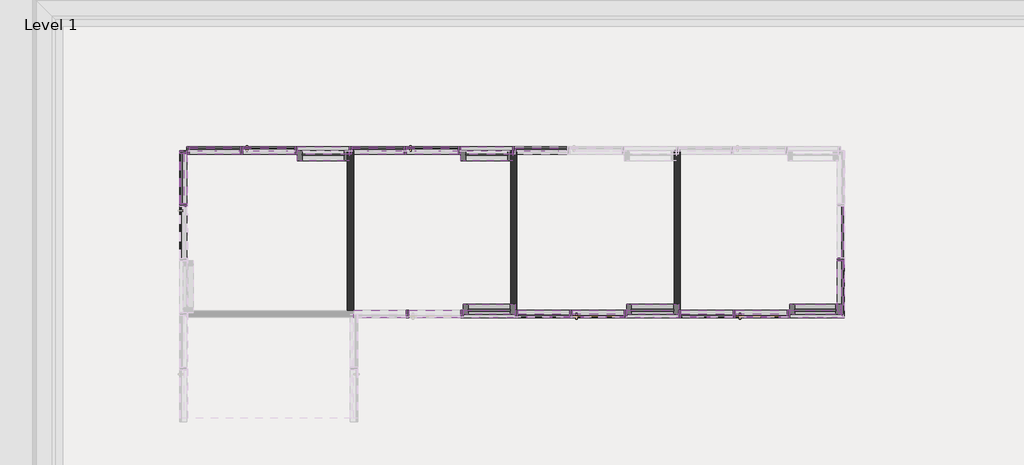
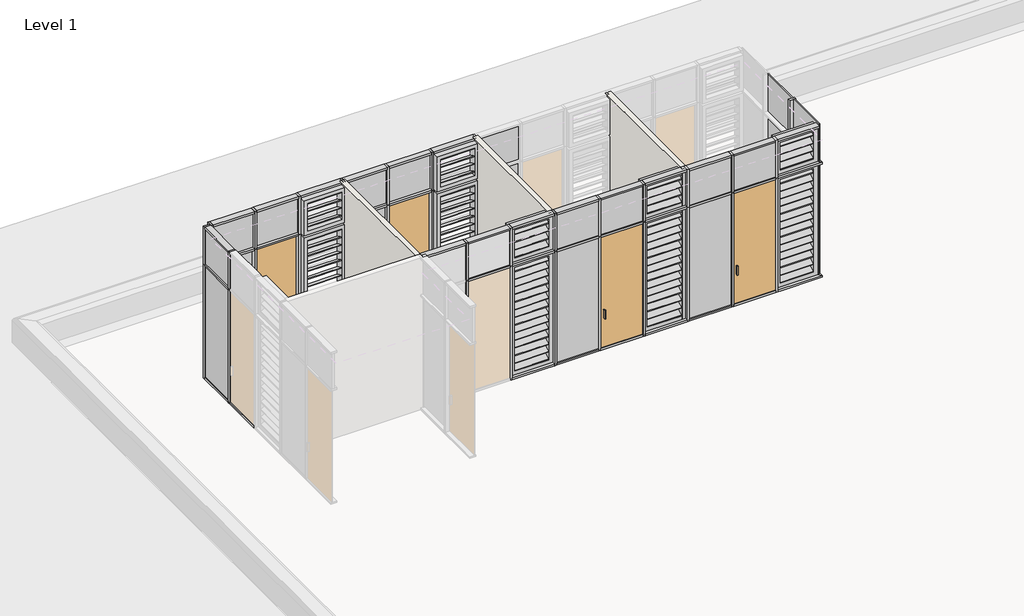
# One storey, part 14 of 32: 85 members, 30 plates, 4 doors, 3 walls.
"""IFC4 building model written with IfcOpenShell, lengths in millimetres."""

from ifc_helpers import new_model, si_unit, frame, origin, place, context, project, spatial, polyline, outline, extrude, transform, mapped, element, save
from components import curtain_wall_door_single_glass_nz_curtain_wall_door_single_2bf20aac, curtain_wall_door_single_glass_nz_curtain_wall_door_single_ff8afd41, rectangular_mullion_50x150mm_c4504768, rectangular_mullion_50x150mm_6c7cb899, rectangular_mullion_50x150mm_b0af8bb0, rectangular_mullion_50x150mm_bbc1c4ea, rectangular_mullion_50x150mm_1a36453b, rectangular_mullion_50x150mm_a65b6ca2, rectangular_mullion_50x150mm_38419d34, rectangular_mullion_50x150mm_eeb88b28, rectangular_mullion_50x150mm_68c91185, rectangular_mullion_50x150mm_0d540e17, rectangular_mullion_50x150mm_108cdc6f, rectangular_mullion_50x150mm_5ad56873, rectangular_mullion_50x150mm_d9cea391, rectangular_mullion_50x150mm_f8d06da4, rectangular_mullion_50x150mm_99d6a864, rectangular_mullion_50x150mm_9f7ecabc, rectangular_mullion_50x150mm_ddefc81e, curtain_wall_panel_louver_20805_curtain_wall_panel_louver_4af505d4, curtain_wall_panel_louver_20805_curtain_wall_panel_louver_14332c5b, curtain_wall_panel_louver_20805_curtain_wall_panel_louver_392ec3e4, curtain_wall_panel_glass_louver_20805_curtain_wall_panel_036772b2, curtain_wall_panel_glass_louver_20805_curtain_wall_panel_0f8e40a1, curtain_wall_panel_glass_louver_20805_curtain_wall_panel_cb61cbd1, system_panel_glazed_a5e8ce8b, system_panel_glazed_2ffedfca, system_panel_glazed_7622d22c, system_panel_glazed_53fe5bbb, system_panel_glazed_bed50b64, system_panel_glazed_01376e9d, system_panel_glazed_e33ebc36, system_panel_solid_585523e5, system_panel_solid_81bf8050, system_panel_solid_10c0fb46, system_panel_solid_2b2d5e45

model = new_model("IFC4")

# Units and contexts
model_context = context("Model", 3, world=origin())
ifc_project = project(units=[si_unit("LENGTHUNIT", "METRE", prefix="MILLI")], contexts=[model_context])

# Site, building, storey
site = spatial("IfcSite", under=ifc_project)
building = spatial("IfcBuilding", under=site)
storey = spatial("IfcBuildingStorey", under=building, Name="Level 1", Elevation=2800.0)

# Doors
placement = place(None, origin())
curtain_wall_door_single_glass_nz_curtain_wall_door_single_shape = curtain_wall_door_single_glass_nz_curtain_wall_door_single_2bf20aac(model_context)
element("IfcDoor", 1, ObjectType="Curtain Wall Door-Single-Glass (NZ) : Curtain Wall Door-Single-Glass (NZ)", at=placement, inside=storey, context=model_context, shape_type="MappedRepresentation", body=[
    mapped(curtain_wall_door_single_glass_nz_curtain_wall_door_single_shape, transform((-82209.8408447, 5494.0800404, 2850.0), x_axis=(1.0, 0.0, 0.0), y_axis=(0.0, 1.0, 0.0), z_axis=(0.0, 0.0, 1.0))),
])
element("IfcDoor", 2, ObjectType="Curtain Wall Door-Single-Glass (NZ) : Curtain Wall Door-Single-Glass (NZ)", at=placement, inside=storey, context=model_context, shape_type="MappedRepresentation", body=[
    mapped(curtain_wall_door_single_glass_nz_curtain_wall_door_single_shape, transform((-85509.8408447, 5494.0800404, 2850.0), x_axis=(1.0, 0.0, 0.0), y_axis=(0.0, 1.0, 0.0), z_axis=(0.0, 0.0, 1.0))),
])
curtain_wall_door_single_glass_nz_curtain_wall_door_single_2_shape = curtain_wall_door_single_glass_nz_curtain_wall_door_single_ff8afd41(model_context)
element("IfcDoor", 3, ObjectType="Curtain Wall Door-Single-Glass (NZ) : Curtain Wall Door-Single-Glass (NZ)", at=placement, inside=storey, context=model_context, shape_type="MappedRepresentation", body=[
    mapped(curtain_wall_door_single_glass_nz_curtain_wall_door_single_2_shape, transform((-75560.3408448, 2194.0800404, 2850.0), x_axis=(1.0, 0.0, 0.0), y_axis=(0.0, 1.0, 0.0), z_axis=(0.0, 0.0, 1.0))),
])
element("IfcDoor", 4, ObjectType="Curtain Wall Door-Single-Glass (NZ) : Curtain Wall Door-Single-Glass (NZ)", at=placement, inside=storey, context=model_context, shape_type="MappedRepresentation", body=[
    mapped(curtain_wall_door_single_glass_nz_curtain_wall_door_single_2_shape, transform((-78860.3408448, 2194.0800404, 2850.0), x_axis=(1.0, 0.0, 0.0), y_axis=(0.0, 1.0, 0.0), z_axis=(0.0, 0.0, 1.0))),
])

# Members
rectangular_mullion_50x150mm_shape = rectangular_mullion_50x150mm_c4504768(model_context)
element("IfcMember", 5, ObjectType="Rectangular Mullion : 50x150mm", at=placement, inside=storey, context=model_context, shape_type="MappedRepresentation", body=[
    mapped(rectangular_mullion_50x150mm_shape, transform((-82784.8408447, 5494.0800404, 5800.0), x_axis=(0.0, 0.0, 1.0), y_axis=(0.0, -1.0, 0.0), z_axis=(1.0, 0.0, 0.0))),
])
element("IfcMember", 6, ObjectType="Rectangular Mullion : 50x150mm", at=placement, inside=storey, context=model_context, shape_type="MappedRepresentation", body=[
    mapped(rectangular_mullion_50x150mm_shape, transform((-80584.8408447, 5494.0800404, 5800.0), x_axis=(0.0, 0.0, 1.0), y_axis=(0.0, -1.0, 0.0), z_axis=(1.0, 0.0, 0.0))),
])
element("IfcMember", 7, ObjectType="Rectangular Mullion : 50x150mm", at=placement, inside=storey, context=model_context, shape_type="MappedRepresentation", body=[
    mapped(rectangular_mullion_50x150mm_shape, transform((-81684.8408447, 5494.0800404, 5800.0), x_axis=(0.0, 0.0, 1.0), y_axis=(0.0, -1.0, 0.0), z_axis=(1.0, 0.0, 0.0))),
])
element("IfcMember", 8, ObjectType="Rectangular Mullion : 50x150mm", at=placement, inside=storey, context=model_context, shape_type="MappedRepresentation", body=[
    mapped(rectangular_mullion_50x150mm_shape, transform((-83884.8408447, 5494.0800404, 5800.0), x_axis=(0.0, 0.0, 1.0), y_axis=(0.0, -1.0, 0.0), z_axis=(1.0, 0.0, 0.0))),
])
element("IfcMember", 9, ObjectType="Rectangular Mullion : 50x150mm", at=placement, inside=storey, context=model_context, shape_type="MappedRepresentation", body=[
    mapped(rectangular_mullion_50x150mm_shape, transform((-84984.8408447, 5494.0800404, 5800.0), x_axis=(0.0, 0.0, 1.0), y_axis=(0.0, -1.0, 0.0), z_axis=(1.0, 0.0, 0.0))),
])
rectangular_mullion_50x150mm_2_shape = rectangular_mullion_50x150mm_6c7cb899(model_context)
element("IfcMember", 10, ObjectType="Rectangular Mullion : 50x150mm", at=placement, inside=storey, context=model_context, shape_type="MappedRepresentation", body=[
    mapped(rectangular_mullion_50x150mm_2_shape, transform((-80559.8408447, 5494.0800404, 2800.0), x_axis=(1.0, 0.0, 0.0), y_axis=(0.0, -1.0, 0.0), z_axis=(0.0, 0.0, -1.0))),
])
element("IfcMember", 11, ObjectType="Rectangular Mullion : 50x150mm", at=placement, inside=storey, context=model_context, shape_type="MappedRepresentation", body=[
    mapped(rectangular_mullion_50x150mm_2_shape, transform((-83859.8408447, 5494.0800404, 2800.0), x_axis=(1.0, 0.0, 0.0), y_axis=(0.0, -1.0, 0.0), z_axis=(0.0, 0.0, -1.0))),
])
element("IfcMember", 12, ObjectType="Rectangular Mullion : 50x150mm", at=placement, inside=storey, context=model_context, shape_type="MappedRepresentation", body=[
    mapped(rectangular_mullion_50x150mm_2_shape, transform((-81659.8408447, 5494.0800404, 2800.0), x_axis=(1.0, 0.0, 0.0), y_axis=(0.0, -1.0, 0.0), z_axis=(0.0, 0.0, -1.0))),
])
element("IfcMember", 13, ObjectType="Rectangular Mullion : 50x150mm", at=placement, inside=storey, context=model_context, shape_type="MappedRepresentation", body=[
    mapped(rectangular_mullion_50x150mm_2_shape, transform((-82759.8408447, 5494.0800404, 2800.0), x_axis=(1.0, 0.0, 0.0), y_axis=(0.0, -1.0, 0.0), z_axis=(0.0, 0.0, -1.0))),
])
element("IfcMember", 14, ObjectType="Rectangular Mullion : 50x150mm", at=placement, inside=storey, context=model_context, shape_type="MappedRepresentation", body=[
    mapped(rectangular_mullion_50x150mm_2_shape, transform((-84959.8408447, 5494.0800404, 2800.0), x_axis=(1.0, 0.0, 0.0), y_axis=(0.0, -1.0, 0.0), z_axis=(0.0, 0.0, -1.0))),
])
element("IfcMember", 15, ObjectType="Rectangular Mullion : 50x150mm", at=placement, inside=storey, context=model_context, shape_type="MappedRepresentation", body=[
    mapped(rectangular_mullion_50x150mm_2_shape, transform((-86059.8408447, 5494.0800404, 2800.0), x_axis=(1.0, 0.0, 0.0), y_axis=(0.0, -1.0, 0.0), z_axis=(0.0, 0.0, -1.0))),
])
element("IfcMember", 16, ObjectType="Rectangular Mullion : 50x150mm", at=placement, inside=storey, context=model_context, shape_type="MappedRepresentation", body=[
    mapped(rectangular_mullion_50x150mm_2_shape, transform((-73959.8408447, 3294.0800405, 2800.0), x_axis=(0.0, -1.0, 0.0), y_axis=(-1.0, 0.0, 0.0), z_axis=(0.0, 0.0, -1.0))),
])
rectangular_mullion_50x150mm_3_shape = rectangular_mullion_50x150mm_b0af8bb0(model_context)
element("IfcMember", 17, ObjectType="Rectangular Mullion : 50x150mm", at=placement, inside=storey, context=model_context, shape_type="MappedRepresentation", body=[
    mapped(rectangular_mullion_50x150mm_3_shape, transform((-80534.8408447, 5494.0800404, 2800.0), x_axis=(0.0, 0.0, -1.0), y_axis=(0.0, -1.0, 0.0), z_axis=(-1.0, 0.0, 0.0))),
])
element("IfcMember", 18, ObjectType="Rectangular Mullion : 50x150mm", at=placement, inside=storey, context=model_context, shape_type="MappedRepresentation", body=[
    mapped(rectangular_mullion_50x150mm_3_shape, transform((-83834.8408447, 5494.0800404, 2800.0), x_axis=(0.0, 0.0, -1.0), y_axis=(0.0, -1.0, 0.0), z_axis=(-1.0, 0.0, 0.0))),
])
element("IfcMember", 19, ObjectType="Rectangular Mullion : 50x150mm", at=placement, inside=storey, context=model_context, shape_type="MappedRepresentation", body=[
    mapped(rectangular_mullion_50x150mm_3_shape, transform((-81634.8408447, 5494.0800404, 2800.0), x_axis=(0.0, 0.0, -1.0), y_axis=(0.0, -1.0, 0.0), z_axis=(-1.0, 0.0, 0.0))),
])
element("IfcMember", 20, ObjectType="Rectangular Mullion : 50x150mm", at=placement, inside=storey, context=model_context, shape_type="MappedRepresentation", body=[
    mapped(rectangular_mullion_50x150mm_3_shape, transform((-82734.8408447, 5494.0800404, 2800.0), x_axis=(0.0, 0.0, -1.0), y_axis=(0.0, -1.0, 0.0), z_axis=(-1.0, 0.0, 0.0))),
])
element("IfcMember", 21, ObjectType="Rectangular Mullion : 50x150mm", at=placement, inside=storey, context=model_context, shape_type="MappedRepresentation", body=[
    mapped(rectangular_mullion_50x150mm_3_shape, transform((-84934.8408447, 5494.0800404, 2800.0), x_axis=(0.0, 0.0, -1.0), y_axis=(0.0, -1.0, 0.0), z_axis=(-1.0, 0.0, 0.0))),
])
element("IfcMember", 22, ObjectType="Rectangular Mullion : 50x150mm", at=placement, inside=storey, context=model_context, shape_type="MappedRepresentation", body=[
    mapped(rectangular_mullion_50x150mm_3_shape, transform((-86034.8408447, 5494.0800404, 2800.0), x_axis=(0.0, 0.0, -1.0), y_axis=(0.0, -1.0, 0.0), z_axis=(-1.0, 0.0, 0.0))),
])
rectangular_mullion_50x150mm_4_shape = rectangular_mullion_50x150mm_bbc1c4ea(model_context)
element("IfcMember", 23, ObjectType="Rectangular Mullion : 50x150mm", at=placement, inside=storey, context=model_context, shape_type="MappedRepresentation", body=[
    mapped(rectangular_mullion_50x150mm_4_shape, transform((-80559.8408447, 5494.0800404, 5800.0), x_axis=(1.0, 0.0, 0.0), y_axis=(0.0, -1.0, 0.0), z_axis=(0.0, 0.0, -1.0))),
])
element("IfcMember", 24, ObjectType="Rectangular Mullion : 50x150mm", at=placement, inside=storey, context=model_context, shape_type="MappedRepresentation", body=[
    mapped(rectangular_mullion_50x150mm_4_shape, transform((-83859.8408447, 5494.0800404, 5800.0), x_axis=(1.0, 0.0, 0.0), y_axis=(0.0, -1.0, 0.0), z_axis=(0.0, 0.0, -1.0))),
])
element("IfcMember", 25, ObjectType="Rectangular Mullion : 50x150mm", at=placement, inside=storey, context=model_context, shape_type="MappedRepresentation", body=[
    mapped(rectangular_mullion_50x150mm_4_shape, transform((-81659.8408447, 5494.0800404, 5800.0), x_axis=(1.0, 0.0, 0.0), y_axis=(0.0, -1.0, 0.0), z_axis=(0.0, 0.0, -1.0))),
])
element("IfcMember", 26, ObjectType="Rectangular Mullion : 50x150mm", at=placement, inside=storey, context=model_context, shape_type="MappedRepresentation", body=[
    mapped(rectangular_mullion_50x150mm_4_shape, transform((-82759.8408447, 5494.0800404, 5800.0), x_axis=(1.0, 0.0, 0.0), y_axis=(0.0, -1.0, 0.0), z_axis=(0.0, 0.0, -1.0))),
])
element("IfcMember", 27, ObjectType="Rectangular Mullion : 50x150mm", at=placement, inside=storey, context=model_context, shape_type="MappedRepresentation", body=[
    mapped(rectangular_mullion_50x150mm_4_shape, transform((-84959.8408447, 5494.0800404, 5800.0), x_axis=(1.0, 0.0, 0.0), y_axis=(0.0, -1.0, 0.0), z_axis=(0.0, 0.0, -1.0))),
])
element("IfcMember", 28, ObjectType="Rectangular Mullion : 50x150mm", at=placement, inside=storey, context=model_context, shape_type="MappedRepresentation", body=[
    mapped(rectangular_mullion_50x150mm_4_shape, transform((-86059.8408447, 5494.0800404, 5800.0), x_axis=(1.0, 0.0, 0.0), y_axis=(0.0, -1.0, 0.0), z_axis=(0.0, 0.0, -1.0))),
])
rectangular_mullion_50x150mm_5_shape = rectangular_mullion_50x150mm_1a36453b(model_context)
element("IfcMember", 29, ObjectType="Rectangular Mullion : 50x150mm", at=placement, inside=storey, context=model_context, shape_type="MappedRepresentation", body=[
    mapped(rectangular_mullion_50x150mm_5_shape, transform((-80584.8408447, 5494.0800404, 6800.0), x_axis=(0.0, 0.0, 1.0), y_axis=(0.0, -1.0, 0.0), z_axis=(1.0, 0.0, 0.0))),
])
element("IfcMember", 30, ObjectType="Rectangular Mullion : 50x150mm", at=placement, inside=storey, context=model_context, shape_type="MappedRepresentation", body=[
    mapped(rectangular_mullion_50x150mm_5_shape, transform((-83884.8408447, 5494.0800404, 6800.0), x_axis=(0.0, 0.0, 1.0), y_axis=(0.0, -1.0, 0.0), z_axis=(1.0, 0.0, 0.0))),
])
element("IfcMember", 31, ObjectType="Rectangular Mullion : 50x150mm", at=placement, inside=storey, context=model_context, shape_type="MappedRepresentation", body=[
    mapped(rectangular_mullion_50x150mm_5_shape, transform((-81684.8408447, 5494.0800404, 6800.0), x_axis=(0.0, 0.0, 1.0), y_axis=(0.0, -1.0, 0.0), z_axis=(1.0, 0.0, 0.0))),
])
element("IfcMember", 32, ObjectType="Rectangular Mullion : 50x150mm", at=placement, inside=storey, context=model_context, shape_type="MappedRepresentation", body=[
    mapped(rectangular_mullion_50x150mm_5_shape, transform((-82784.8408447, 5494.0800404, 6800.0), x_axis=(0.0, 0.0, 1.0), y_axis=(0.0, -1.0, 0.0), z_axis=(1.0, 0.0, 0.0))),
])
element("IfcMember", 33, ObjectType="Rectangular Mullion : 50x150mm", at=placement, inside=storey, context=model_context, shape_type="MappedRepresentation", body=[
    mapped(rectangular_mullion_50x150mm_5_shape, transform((-84984.8408447, 5494.0800404, 6800.0), x_axis=(0.0, 0.0, 1.0), y_axis=(0.0, -1.0, 0.0), z_axis=(1.0, 0.0, 0.0))),
])
rectangular_mullion_50x150mm_6_shape = rectangular_mullion_50x150mm_a65b6ca2(model_context)
element("IfcMember", 34, ObjectType="Rectangular Mullion : 50x150mm", at=placement, inside=storey, context=model_context, shape_type="MappedRepresentation", body=[
    mapped(rectangular_mullion_50x150mm_6_shape, transform((-86084.8408447, 5494.0800404, 6800.0), x_axis=(0.0, 0.0, 1.0), y_axis=(0.0, -1.0, 0.0), z_axis=(1.0, 0.0, 0.0))),
])
element("IfcMember", 35, ObjectType="Rectangular Mullion : 50x150mm", at=placement, inside=storey, context=model_context, shape_type="MappedRepresentation", body=[
    mapped(rectangular_mullion_50x150mm_6_shape, transform((-87109.8408447, 5494.0800404, 2800.0), x_axis=(0.0, 0.0, -1.0), y_axis=(0.0, -1.0, 0.0), z_axis=(-1.0, 0.0, 0.0))),
])
rectangular_mullion_50x150mm_7_shape = rectangular_mullion_50x150mm_38419d34(model_context)
element("IfcMember", 36, ObjectType="Rectangular Mullion : 50x150mm", at=placement, inside=storey, context=model_context, shape_type="MappedRepresentation", body=[
    mapped(rectangular_mullion_50x150mm_7_shape, transform((-86084.8408447, 5494.0800404, 5800.0), x_axis=(0.0, 0.0, 1.0), y_axis=(0.0, -1.0, 0.0), z_axis=(1.0, 0.0, 0.0))),
])
rectangular_mullion_50x150mm_8_shape = rectangular_mullion_50x150mm_eeb88b28(model_context)
element("IfcMember", 37, ObjectType="Rectangular Mullion : 50x150mm", at=placement, inside=storey, context=model_context, shape_type="MappedRepresentation", body=[
    mapped(rectangular_mullion_50x150mm_8_shape, transform((-87159.8408447, 5494.0800404, 6800.0), x_axis=(-1.0, 0.0, 0.0), y_axis=(0.0, -1.0, 0.0), z_axis=(0.0, 0.0, 1.0))),
])
rectangular_mullion_50x150mm_9_shape = rectangular_mullion_50x150mm_68c91185(model_context)
element("IfcMember", 38, ObjectType="Rectangular Mullion : 50x150mm", at=placement, inside=storey, context=model_context, shape_type="MappedRepresentation", body=[
    mapped(rectangular_mullion_50x150mm_9_shape, transform((-87159.8408447, 5494.0800404, 5800.0), x_axis=(-1.0, 0.0, 0.0), y_axis=(0.0, -1.0, 0.0), z_axis=(0.0, 0.0, 1.0))),
])
element("IfcMember", 39, ObjectType="Rectangular Mullion : 50x150mm", at=placement, inside=storey, context=model_context, shape_type="MappedRepresentation", body=[
    mapped(rectangular_mullion_50x150mm_4_shape, transform((-76110.3408448, 2194.0800404, 5800.0), x_axis=(1.0, 0.0, 0.0), y_axis=(0.0, -1.0, 0.0), z_axis=(0.0, 0.0, -1.0))),
])
element("IfcMember", 40, ObjectType="Rectangular Mullion : 50x150mm", at=placement, inside=storey, context=model_context, shape_type="MappedRepresentation", body=[
    mapped(rectangular_mullion_50x150mm_4_shape, transform((-75010.3408448, 2194.0800404, 5800.0), x_axis=(1.0, 0.0, 0.0), y_axis=(0.0, -1.0, 0.0), z_axis=(0.0, 0.0, -1.0))),
])
element("IfcMember", 41, ObjectType="Rectangular Mullion : 50x150mm", at=placement, inside=storey, context=model_context, shape_type="MappedRepresentation", body=[
    mapped(rectangular_mullion_50x150mm_4_shape, transform((-77210.3408448, 2194.0800404, 5800.0), x_axis=(1.0, 0.0, 0.0), y_axis=(0.0, -1.0, 0.0), z_axis=(0.0, 0.0, -1.0))),
])
element("IfcMember", 42, ObjectType="Rectangular Mullion : 50x150mm", at=placement, inside=storey, context=model_context, shape_type="MappedRepresentation", body=[
    mapped(rectangular_mullion_50x150mm_4_shape, transform((-78310.3408448, 2194.0800404, 5800.0), x_axis=(1.0, 0.0, 0.0), y_axis=(0.0, -1.0, 0.0), z_axis=(0.0, 0.0, -1.0))),
])
element("IfcMember", 43, ObjectType="Rectangular Mullion : 50x150mm", at=placement, inside=storey, context=model_context, shape_type="MappedRepresentation", body=[
    mapped(rectangular_mullion_50x150mm_4_shape, transform((-79410.3408448, 2194.0800404, 5800.0), x_axis=(1.0, 0.0, 0.0), y_axis=(0.0, -1.0, 0.0), z_axis=(0.0, 0.0, -1.0))),
])
element("IfcMember", 44, ObjectType="Rectangular Mullion : 50x150mm", at=placement, inside=storey, context=model_context, shape_type="MappedRepresentation", body=[
    mapped(rectangular_mullion_50x150mm_4_shape, transform((-80510.3408448, 2194.0800404, 5800.0), x_axis=(1.0, 0.0, 0.0), y_axis=(0.0, -1.0, 0.0), z_axis=(0.0, 0.0, -1.0))),
])
element("IfcMember", 45, ObjectType="Rectangular Mullion : 50x150mm", at=placement, inside=storey, context=model_context, shape_type="MappedRepresentation", body=[
    mapped(rectangular_mullion_50x150mm_4_shape, transform((-81610.3408448, 2194.0800404, 5800.0), x_axis=(1.0, 0.0, 0.0), y_axis=(0.0, -1.0, 0.0), z_axis=(0.0, 0.0, -1.0))),
])
element("IfcMember", 46, ObjectType="Rectangular Mullion : 50x150mm", at=placement, inside=storey, context=model_context, shape_type="MappedRepresentation", body=[
    mapped(rectangular_mullion_50x150mm_4_shape, transform((-82710.3408448, 2194.0800404, 5800.0), x_axis=(1.0, 0.0, 0.0), y_axis=(0.0, -1.0, 0.0), z_axis=(0.0, 0.0, -1.0))),
])
element("IfcMember", 47, ObjectType="Rectangular Mullion : 50x150mm", at=placement, inside=storey, context=model_context, shape_type="MappedRepresentation", body=[
    mapped(rectangular_mullion_50x150mm_2_shape, transform((-76110.3408448, 2194.0800404, 2800.0), x_axis=(1.0, 0.0, 0.0), y_axis=(0.0, -1.0, 0.0), z_axis=(0.0, 0.0, -1.0))),
])
element("IfcMember", 48, ObjectType="Rectangular Mullion : 50x150mm", at=placement, inside=storey, context=model_context, shape_type="MappedRepresentation", body=[
    mapped(rectangular_mullion_50x150mm_2_shape, transform((-75010.3408448, 2194.0800404, 2800.0), x_axis=(1.0, 0.0, 0.0), y_axis=(0.0, -1.0, 0.0), z_axis=(0.0, 0.0, -1.0))),
])
element("IfcMember", 49, ObjectType="Rectangular Mullion : 50x150mm", at=placement, inside=storey, context=model_context, shape_type="MappedRepresentation", body=[
    mapped(rectangular_mullion_50x150mm_2_shape, transform((-77210.3408448, 2194.0800404, 2800.0), x_axis=(1.0, 0.0, 0.0), y_axis=(0.0, -1.0, 0.0), z_axis=(0.0, 0.0, -1.0))),
])
element("IfcMember", 50, ObjectType="Rectangular Mullion : 50x150mm", at=placement, inside=storey, context=model_context, shape_type="MappedRepresentation", body=[
    mapped(rectangular_mullion_50x150mm_2_shape, transform((-78310.3408448, 2194.0800404, 2800.0), x_axis=(1.0, 0.0, 0.0), y_axis=(0.0, -1.0, 0.0), z_axis=(0.0, 0.0, -1.0))),
])
element("IfcMember", 51, ObjectType="Rectangular Mullion : 50x150mm", at=placement, inside=storey, context=model_context, shape_type="MappedRepresentation", body=[
    mapped(rectangular_mullion_50x150mm_2_shape, transform((-79410.3408448, 2194.0800404, 2800.0), x_axis=(1.0, 0.0, 0.0), y_axis=(0.0, -1.0, 0.0), z_axis=(0.0, 0.0, -1.0))),
])
element("IfcMember", 52, ObjectType="Rectangular Mullion : 50x150mm", at=placement, inside=storey, context=model_context, shape_type="MappedRepresentation", body=[
    mapped(rectangular_mullion_50x150mm_2_shape, transform((-80510.3408448, 2194.0800404, 2800.0), x_axis=(1.0, 0.0, 0.0), y_axis=(0.0, -1.0, 0.0), z_axis=(0.0, 0.0, -1.0))),
])
element("IfcMember", 53, ObjectType="Rectangular Mullion : 50x150mm", at=placement, inside=storey, context=model_context, shape_type="MappedRepresentation", body=[
    mapped(rectangular_mullion_50x150mm_2_shape, transform((-81610.3408448, 2194.0800404, 2800.0), x_axis=(1.0, 0.0, 0.0), y_axis=(0.0, -1.0, 0.0), z_axis=(0.0, 0.0, -1.0))),
])
element("IfcMember", 54, ObjectType="Rectangular Mullion : 50x150mm", at=placement, inside=storey, context=model_context, shape_type="MappedRepresentation", body=[
    mapped(rectangular_mullion_50x150mm_2_shape, transform((-82710.3408448, 2194.0800404, 2800.0), x_axis=(1.0, 0.0, 0.0), y_axis=(0.0, -1.0, 0.0), z_axis=(0.0, 0.0, -1.0))),
])
rectangular_mullion_50x150mm_10_shape = rectangular_mullion_50x150mm_0d540e17(model_context)
element("IfcMember", 55, ObjectType="Rectangular Mullion : 50x150mm", at=placement, inside=storey, context=model_context, shape_type="MappedRepresentation", body=[
    mapped(rectangular_mullion_50x150mm_10_shape, transform((-76135.3408448, 2194.0800404, 5800.0), x_axis=(0.0, 0.0, 1.0), y_axis=(0.0, -1.0, 0.0), z_axis=(1.0, 0.0, 0.0))),
])
element("IfcMember", 56, ObjectType="Rectangular Mullion : 50x150mm", at=placement, inside=storey, context=model_context, shape_type="MappedRepresentation", body=[
    mapped(rectangular_mullion_50x150mm_10_shape, transform((-75035.3408448, 2194.0800404, 5800.0), x_axis=(0.0, 0.0, 1.0), y_axis=(0.0, -1.0, 0.0), z_axis=(1.0, 0.0, 0.0))),
])
element("IfcMember", 57, ObjectType="Rectangular Mullion : 50x150mm", at=placement, inside=storey, context=model_context, shape_type="MappedRepresentation", body=[
    mapped(rectangular_mullion_50x150mm_10_shape, transform((-77235.3408448, 2194.0800404, 5800.0), x_axis=(0.0, 0.0, 1.0), y_axis=(0.0, -1.0, 0.0), z_axis=(1.0, 0.0, 0.0))),
])
element("IfcMember", 58, ObjectType="Rectangular Mullion : 50x150mm", at=placement, inside=storey, context=model_context, shape_type="MappedRepresentation", body=[
    mapped(rectangular_mullion_50x150mm_10_shape, transform((-78335.3408448, 2194.0800404, 5800.0), x_axis=(0.0, 0.0, 1.0), y_axis=(0.0, -1.0, 0.0), z_axis=(1.0, 0.0, 0.0))),
])
element("IfcMember", 59, ObjectType="Rectangular Mullion : 50x150mm", at=placement, inside=storey, context=model_context, shape_type="MappedRepresentation", body=[
    mapped(rectangular_mullion_50x150mm_10_shape, transform((-80535.3408448, 2194.0800404, 5800.0), x_axis=(0.0, 0.0, 1.0), y_axis=(0.0, -1.0, 0.0), z_axis=(1.0, 0.0, 0.0))),
])
element("IfcMember", 60, ObjectType="Rectangular Mullion : 50x150mm", at=placement, inside=storey, context=model_context, shape_type="MappedRepresentation", body=[
    mapped(rectangular_mullion_50x150mm_10_shape, transform((-81635.3408448, 2194.0800404, 5800.0), x_axis=(0.0, 0.0, 1.0), y_axis=(0.0, -1.0, 0.0), z_axis=(1.0, 0.0, 0.0))),
])
element("IfcMember", 61, ObjectType="Rectangular Mullion : 50x150mm", at=placement, inside=storey, context=model_context, shape_type="MappedRepresentation", body=[
    mapped(rectangular_mullion_50x150mm_10_shape, transform((-79435.3408448, 2194.0800404, 5800.0), x_axis=(0.0, 0.0, 1.0), y_axis=(0.0, -1.0, 0.0), z_axis=(1.0, 0.0, 0.0))),
])
rectangular_mullion_50x150mm_11_shape = rectangular_mullion_50x150mm_108cdc6f(model_context)
element("IfcMember", 62, ObjectType="Rectangular Mullion : 50x150mm", at=placement, inside=storey, context=model_context, shape_type="MappedRepresentation", body=[
    mapped(rectangular_mullion_50x150mm_11_shape, transform((-77185.3408448, 2194.0800404, 2800.0), x_axis=(0.0, 0.0, -1.0), y_axis=(0.0, -1.0, 0.0), z_axis=(-1.0, 0.0, 0.0))),
])
element("IfcMember", 63, ObjectType="Rectangular Mullion : 50x150mm", at=placement, inside=storey, context=model_context, shape_type="MappedRepresentation", body=[
    mapped(rectangular_mullion_50x150mm_11_shape, transform((-76085.3408448, 2194.0800404, 2800.0), x_axis=(0.0, 0.0, -1.0), y_axis=(0.0, -1.0, 0.0), z_axis=(-1.0, 0.0, 0.0))),
])
element("IfcMember", 64, ObjectType="Rectangular Mullion : 50x150mm", at=placement, inside=storey, context=model_context, shape_type="MappedRepresentation", body=[
    mapped(rectangular_mullion_50x150mm_11_shape, transform((-78285.3408448, 2194.0800404, 2800.0), x_axis=(0.0, 0.0, -1.0), y_axis=(0.0, -1.0, 0.0), z_axis=(-1.0, 0.0, 0.0))),
])
element("IfcMember", 65, ObjectType="Rectangular Mullion : 50x150mm", at=placement, inside=storey, context=model_context, shape_type="MappedRepresentation", body=[
    mapped(rectangular_mullion_50x150mm_11_shape, transform((-79385.3408448, 2194.0800404, 2800.0), x_axis=(0.0, 0.0, -1.0), y_axis=(0.0, -1.0, 0.0), z_axis=(-1.0, 0.0, 0.0))),
])
element("IfcMember", 66, ObjectType="Rectangular Mullion : 50x150mm", at=placement, inside=storey, context=model_context, shape_type="MappedRepresentation", body=[
    mapped(rectangular_mullion_50x150mm_11_shape, transform((-81585.3408448, 2194.0800404, 2800.0), x_axis=(0.0, 0.0, -1.0), y_axis=(0.0, -1.0, 0.0), z_axis=(-1.0, 0.0, 0.0))),
])
element("IfcMember", 67, ObjectType="Rectangular Mullion : 50x150mm", at=placement, inside=storey, context=model_context, shape_type="MappedRepresentation", body=[
    mapped(rectangular_mullion_50x150mm_11_shape, transform((-80485.3408448, 2194.0800404, 2800.0), x_axis=(0.0, 0.0, -1.0), y_axis=(0.0, -1.0, 0.0), z_axis=(-1.0, 0.0, 0.0))),
])
element("IfcMember", 68, ObjectType="Rectangular Mullion : 50x150mm", at=placement, inside=storey, context=model_context, shape_type="MappedRepresentation", body=[
    mapped(rectangular_mullion_50x150mm_5_shape, transform((-77235.3408448, 2194.0800404, 6800.0), x_axis=(0.0, 0.0, 1.0), y_axis=(0.0, -1.0, 0.0), z_axis=(1.0, 0.0, 0.0))),
])
element("IfcMember", 69, ObjectType="Rectangular Mullion : 50x150mm", at=placement, inside=storey, context=model_context, shape_type="MappedRepresentation", body=[
    mapped(rectangular_mullion_50x150mm_5_shape, transform((-75035.3408448, 2194.0800404, 6800.0), x_axis=(0.0, 0.0, 1.0), y_axis=(0.0, -1.0, 0.0), z_axis=(1.0, 0.0, 0.0))),
])
element("IfcMember", 70, ObjectType="Rectangular Mullion : 50x150mm", at=placement, inside=storey, context=model_context, shape_type="MappedRepresentation", body=[
    mapped(rectangular_mullion_50x150mm_5_shape, transform((-76135.3408448, 2194.0800404, 6800.0), x_axis=(0.0, 0.0, 1.0), y_axis=(0.0, -1.0, 0.0), z_axis=(1.0, 0.0, 0.0))),
])
element("IfcMember", 71, ObjectType="Rectangular Mullion : 50x150mm", at=placement, inside=storey, context=model_context, shape_type="MappedRepresentation", body=[
    mapped(rectangular_mullion_50x150mm_5_shape, transform((-78335.3408448, 2194.0800404, 6800.0), x_axis=(0.0, 0.0, 1.0), y_axis=(0.0, -1.0, 0.0), z_axis=(1.0, 0.0, 0.0))),
])
element("IfcMember", 72, ObjectType="Rectangular Mullion : 50x150mm", at=placement, inside=storey, context=model_context, shape_type="MappedRepresentation", body=[
    mapped(rectangular_mullion_50x150mm_5_shape, transform((-79435.3408448, 2194.0800404, 6800.0), x_axis=(0.0, 0.0, 1.0), y_axis=(0.0, -1.0, 0.0), z_axis=(1.0, 0.0, 0.0))),
])
element("IfcMember", 73, ObjectType="Rectangular Mullion : 50x150mm", at=placement, inside=storey, context=model_context, shape_type="MappedRepresentation", body=[
    mapped(rectangular_mullion_50x150mm_5_shape, transform((-81635.3408448, 2194.0800404, 6800.0), x_axis=(0.0, 0.0, 1.0), y_axis=(0.0, -1.0, 0.0), z_axis=(1.0, 0.0, 0.0))),
])
element("IfcMember", 74, ObjectType="Rectangular Mullion : 50x150mm", at=placement, inside=storey, context=model_context, shape_type="MappedRepresentation", body=[
    mapped(rectangular_mullion_50x150mm_5_shape, transform((-80535.3408448, 2194.0800404, 6800.0), x_axis=(0.0, 0.0, 1.0), y_axis=(0.0, -1.0, 0.0), z_axis=(1.0, 0.0, 0.0))),
])
element("IfcMember", 75, ObjectType="Rectangular Mullion : 50x150mm", at=placement, inside=storey, context=model_context, shape_type="MappedRepresentation", body=[
    mapped(rectangular_mullion_50x150mm_11_shape, transform((-87234.8408447, 4369.0800404, 2800.0), x_axis=(0.0, 0.0, -1.0), y_axis=(-1.0, 0.0, 0.0), z_axis=(0.0, 1.0, 0.0))),
])
element("IfcMember", 76, ObjectType="Rectangular Mullion : 50x150mm", at=placement, inside=storey, context=model_context, shape_type="MappedRepresentation", body=[
    mapped(rectangular_mullion_50x150mm_6_shape, transform((-87234.8408447, 5444.0800404, 2800.0), x_axis=(0.0, 0.0, -1.0), y_axis=(-1.0, 0.0, 0.0), z_axis=(0.0, 1.0, 0.0))),
])
element("IfcMember", 77, ObjectType="Rectangular Mullion : 50x150mm", at=placement, inside=storey, context=model_context, shape_type="MappedRepresentation", body=[
    mapped(rectangular_mullion_50x150mm_7_shape, transform((-87234.8408447, 4419.0800404, 5800.0), x_axis=(0.0, 0.0, 1.0), y_axis=(-1.0, 0.0, 0.0), z_axis=(0.0, -1.0, 0.0))),
])
rectangular_mullion_50x150mm_12_shape = rectangular_mullion_50x150mm_5ad56873(model_context)
element("IfcMember", 78, ObjectType="Rectangular Mullion : 50x150mm", at=placement, inside=storey, context=model_context, shape_type="MappedRepresentation", body=[
    mapped(rectangular_mullion_50x150mm_12_shape, transform((-73959.8408447, 2194.0800404, 6800.0), x_axis=(0.0, 0.0, 1.0), y_axis=(0.0, -1.0, 0.0), z_axis=(1.0, 0.0, 0.0))),
])
rectangular_mullion_50x150mm_13_shape = rectangular_mullion_50x150mm_d9cea391(model_context)
element("IfcMember", 79, ObjectType="Rectangular Mullion : 50x150mm", at=placement, inside=storey, context=model_context, shape_type="MappedRepresentation", body=[
    mapped(rectangular_mullion_50x150mm_13_shape, transform((-82735.3408448, 2194.0800404, 6800.0), x_axis=(0.0, 0.0, 1.0), y_axis=(0.0, -1.0, 0.0), z_axis=(1.0, 0.0, 0.0))),
])
element("IfcMember", 80, ObjectType="Rectangular Mullion : 50x150mm", at=placement, inside=storey, context=model_context, shape_type="MappedRepresentation", body=[
    mapped(rectangular_mullion_50x150mm_4_shape, transform((-87234.8408447, 4394.0800404, 5800.0), x_axis=(0.0, -1.0, 0.0), y_axis=(-1.0, 0.0, 0.0), z_axis=(0.0, 0.0, -1.0))),
])
element("IfcMember", 81, ObjectType="Rectangular Mullion : 50x150mm", at=placement, inside=storey, context=model_context, shape_type="MappedRepresentation", body=[
    mapped(rectangular_mullion_50x150mm_2_shape, transform((-87234.8408447, 4394.0800404, 2800.0), x_axis=(0.0, -1.0, 0.0), y_axis=(-1.0, 0.0, 0.0), z_axis=(0.0, 0.0, -1.0))),
])
element("IfcMember", 82, ObjectType="Rectangular Mullion : 50x150mm", at=placement, inside=storey, context=model_context, shape_type="MappedRepresentation", body=[
    mapped(rectangular_mullion_50x150mm_6_shape, transform((-87234.8408447, 4419.0800404, 6800.0), x_axis=(0.0, 0.0, 1.0), y_axis=(-1.0, 0.0, 0.0), z_axis=(0.0, -1.0, 0.0))),
])
element("IfcMember", 83, ObjectType="Rectangular Mullion : 50x150mm", at=placement, inside=storey, context=model_context, shape_type="MappedRepresentation", body=[
    mapped(rectangular_mullion_50x150mm_9_shape, transform((-87234.8408447, 5494.0800404, 5800.0), x_axis=(0.0, 1.0, 0.0), y_axis=(-1.0, 0.0, 0.0), z_axis=(0.0, 0.0, 1.0))),
])
element("IfcMember", 84, ObjectType="Rectangular Mullion : 50x150mm", at=placement, inside=storey, context=model_context, shape_type="MappedRepresentation", body=[
    mapped(rectangular_mullion_50x150mm_8_shape, transform((-87234.8408447, 5494.0800404, 6800.0), x_axis=(0.0, 1.0, 0.0), y_axis=(-1.0, 0.0, 0.0), z_axis=(0.0, 0.0, 1.0))),
])
rectangular_mullion_50x150mm_14_shape = rectangular_mullion_50x150mm_f8d06da4(model_context)
element("IfcMember", 85, ObjectType="Rectangular Mullion : 50x150mm", at=placement, inside=storey, context=model_context, shape_type="MappedRepresentation", body=[
    mapped(rectangular_mullion_50x150mm_14_shape, transform((-73959.8408447, 3269.0800405, 2800.0), x_axis=(0.0, 0.0, -1.0), y_axis=(-1.0, 0.0, 0.0), z_axis=(0.0, 1.0, 0.0))),
])
rectangular_mullion_50x150mm_15_shape = rectangular_mullion_50x150mm_99d6a864(model_context)
element("IfcMember", 86, ObjectType="Rectangular Mullion : 50x150mm", at=placement, inside=storey, context=model_context, shape_type="MappedRepresentation", body=[
    mapped(rectangular_mullion_50x150mm_15_shape, transform((-74985.3408448, 2194.0800404, 2800.0), x_axis=(0.0, 0.0, -1.0), y_axis=(0.0, -1.0, 0.0), z_axis=(-1.0, 0.0, 0.0))),
])
element("IfcMember", 87, ObjectType="Rectangular Mullion : 50x150mm", at=placement, inside=storey, context=model_context, shape_type="MappedRepresentation", body=[
    mapped(rectangular_mullion_50x150mm_4_shape, transform((-73959.8408447, 3294.0800405, 5800.0), x_axis=(0.0, -1.0, 0.0), y_axis=(-1.0, 0.0, 0.0), z_axis=(0.0, 0.0, -1.0))),
])
rectangular_mullion_50x150mm_16_shape = rectangular_mullion_50x150mm_9f7ecabc(model_context)
element("IfcMember", 88, ObjectType="Rectangular Mullion : 50x150mm", at=placement, inside=storey, context=model_context, shape_type="MappedRepresentation", body=[
    mapped(rectangular_mullion_50x150mm_16_shape, transform((-73959.8408447, 2194.0800404, 5800.0), x_axis=(0.0, 0.0, 1.0), y_axis=(-1.0, 0.0, 0.0), z_axis=(0.0, -1.0, 0.0))),
])
rectangular_mullion_50x150mm_17_shape = rectangular_mullion_50x150mm_ddefc81e(model_context)
element("IfcMember", 89, ObjectType="Rectangular Mullion : 50x150mm", at=placement, inside=storey, context=model_context, shape_type="MappedRepresentation", body=[
    mapped(rectangular_mullion_50x150mm_17_shape, transform((-73959.8408447, 2194.0800404, 5800.0), x_axis=(0.0, 0.0, 1.0), y_axis=(0.0, -1.0, 0.0), z_axis=(1.0, 0.0, 0.0))),
])

# Plates
curtain_wall_panel_louver_20805_curtain_wall_panel_louver_shape = curtain_wall_panel_louver_20805_curtain_wall_panel_louver_4af505d4(model_context)
element("IfcPlate", 90, ObjectType="Curtain_wall_panel_-_Louver_20805 : Curtain_wall_panel_-_Louver_20805", at=placement, inside=storey, context=model_context, shape_type="MappedRepresentation", body=[
    mapped(curtain_wall_panel_louver_20805_curtain_wall_panel_louver_shape, transform((-84409.8408447, 5494.0800404, 5825.0), x_axis=(1.0, 0.0, 0.0), y_axis=(0.0, 1.0, 0.0), z_axis=(0.0, 0.0, 1.0))),
])
element("IfcPlate", 91, ObjectType="Curtain_wall_panel_-_Louver_20805 : Curtain_wall_panel_-_Louver_20805", at=placement, inside=storey, context=model_context, shape_type="MappedRepresentation", body=[
    mapped(curtain_wall_panel_louver_20805_curtain_wall_panel_louver_shape, transform((-81109.8408447, 5494.0800404, 5825.0), x_axis=(1.0, 0.0, 0.0), y_axis=(0.0, 1.0, 0.0), z_axis=(0.0, 0.0, 1.0))),
])
curtain_wall_panel_louver_20805_curtain_wall_panel_louver_2_shape = curtain_wall_panel_louver_20805_curtain_wall_panel_louver_14332c5b(model_context)
element("IfcPlate", 92, ObjectType="Curtain_wall_panel_-_Louver_20805 : Curtain_wall_panel_-_Louver_20805", at=placement, inside=storey, context=model_context, shape_type="MappedRepresentation", body=[
    mapped(curtain_wall_panel_louver_20805_curtain_wall_panel_louver_2_shape, transform((-77760.3408448, 2194.0800404, 5825.0), x_axis=(1.0, 0.0, 0.0), y_axis=(0.0, 1.0, 0.0), z_axis=(0.0, 0.0, 1.0))),
])
element("IfcPlate", 93, ObjectType="Curtain_wall_panel_-_Louver_20805 : Curtain_wall_panel_-_Louver_20805", at=placement, inside=storey, context=model_context, shape_type="MappedRepresentation", body=[
    mapped(curtain_wall_panel_louver_20805_curtain_wall_panel_louver_2_shape, transform((-81060.3408448, 2194.0800404, 5825.0), x_axis=(1.0, 0.0, 0.0), y_axis=(0.0, 1.0, 0.0), z_axis=(0.0, 0.0, 1.0))),
])
curtain_wall_panel_louver_20805_curtain_wall_panel_louver_3_shape = curtain_wall_panel_louver_20805_curtain_wall_panel_louver_392ec3e4(model_context)
element("IfcPlate", 94, ObjectType="Curtain_wall_panel_-_Louver_20805 : Curtain_wall_panel_-_Louver_20805", at=placement, inside=storey, context=model_context, shape_type="MappedRepresentation", body=[
    mapped(curtain_wall_panel_louver_20805_curtain_wall_panel_louver_3_shape, transform((-74472.5908448, 2194.0800404, 5825.0), x_axis=(1.0, 0.0, 0.0), y_axis=(0.0, 1.0, 0.0), z_axis=(0.0, 0.0, 1.0))),
])
curtain_wall_panel_glass_louver_20805_curtain_wall_panel_shape = curtain_wall_panel_glass_louver_20805_curtain_wall_panel_036772b2(model_context)
element("IfcPlate", 95, ObjectType="Curtain_wall_panel_glass_Louver_20805 : Curtain_wall_panel_glass_Louver_20805", at=placement, inside=storey, context=model_context, shape_type="MappedRepresentation", body=[
    mapped(curtain_wall_panel_glass_louver_20805_curtain_wall_panel_shape, transform((-81109.8408447, 5494.0800404, 2850.0), x_axis=(1.0, 0.0, 0.0), y_axis=(0.0, 1.0, 0.0), z_axis=(0.0, 0.0, 1.0))),
])
element("IfcPlate", 96, ObjectType="Curtain_wall_panel_glass_Louver_20805 : Curtain_wall_panel_glass_Louver_20805", at=placement, inside=storey, context=model_context, shape_type="MappedRepresentation", body=[
    mapped(curtain_wall_panel_glass_louver_20805_curtain_wall_panel_shape, transform((-84409.8408447, 5494.0800404, 2850.0), x_axis=(1.0, 0.0, 0.0), y_axis=(0.0, 1.0, 0.0), z_axis=(0.0, 0.0, 1.0))),
])
curtain_wall_panel_glass_louver_20805_curtain_wall_panel_2_shape = curtain_wall_panel_glass_louver_20805_curtain_wall_panel_0f8e40a1(model_context)
element("IfcPlate", 97, ObjectType="Curtain_wall_panel_glass_Louver_20805 : Curtain_wall_panel_glass_Louver_20805", at=placement, inside=storey, context=model_context, shape_type="MappedRepresentation", body=[
    mapped(curtain_wall_panel_glass_louver_20805_curtain_wall_panel_2_shape, transform((-77760.3408448, 2194.0800404, 2850.0), x_axis=(1.0, 0.0, 0.0), y_axis=(0.0, 1.0, 0.0), z_axis=(0.0, 0.0, 1.0))),
])
element("IfcPlate", 98, ObjectType="Curtain_wall_panel_glass_Louver_20805 : Curtain_wall_panel_glass_Louver_20805", at=placement, inside=storey, context=model_context, shape_type="MappedRepresentation", body=[
    mapped(curtain_wall_panel_glass_louver_20805_curtain_wall_panel_2_shape, transform((-81060.3408448, 2194.0800404, 2850.0), x_axis=(1.0, 0.0, 0.0), y_axis=(0.0, 1.0, 0.0), z_axis=(0.0, 0.0, 1.0))),
])
curtain_wall_panel_glass_louver_20805_curtain_wall_panel_3_shape = curtain_wall_panel_glass_louver_20805_curtain_wall_panel_cb61cbd1(model_context)
element("IfcPlate", 99, ObjectType="Curtain_wall_panel_glass_Louver_20805 : Curtain_wall_panel_glass_Louver_20805", at=placement, inside=storey, context=model_context, shape_type="MappedRepresentation", body=[
    mapped(curtain_wall_panel_glass_louver_20805_curtain_wall_panel_3_shape, transform((-74472.5908448, 2194.0800404, 2850.0), x_axis=(1.0, 0.0, 0.0), y_axis=(0.0, 1.0, 0.0), z_axis=(0.0, 0.0, 1.0))),
])
system_panel_glazed_shape = system_panel_glazed_a5e8ce8b(model_context)
element("IfcPlate", 100, ObjectType="System Panel : Glazed", at=placement, inside=storey, context=model_context, shape_type="MappedRepresentation", body=[
    mapped(system_panel_glazed_shape, transform((-73959.8408447, 3844.0800404, 2850.0), x_axis=(0.0, -1.0, 0.0), y_axis=(1.0, 0.0, 0.0), z_axis=(0.0, 0.0, 1.0))),
])
element("IfcPlate", 101, ObjectType="System Panel : Glazed", at=placement, inside=storey, context=model_context, shape_type="MappedRepresentation", body=[
    mapped(system_panel_glazed_shape, transform((-80009.8408447, 5494.0800404, 2850.0), x_axis=(1.0, 0.0, 0.0), y_axis=(0.0, 1.0, 0.0), z_axis=(0.0, 0.0, 1.0))),
])
element("IfcPlate", 102, ObjectType="System Panel : Glazed", at=placement, inside=storey, context=model_context, shape_type="MappedRepresentation", body=[
    mapped(system_panel_glazed_shape, transform((-83309.8408447, 5494.0800404, 2850.0), x_axis=(1.0, 0.0, 0.0), y_axis=(0.0, 1.0, 0.0), z_axis=(0.0, 0.0, 1.0))),
])
system_panel_glazed_2_shape = system_panel_glazed_2ffedfca(model_context)
element("IfcPlate", 103, ObjectType="System Panel : Glazed", at=placement, inside=storey, context=model_context, shape_type="MappedRepresentation", body=[
    mapped(system_panel_glazed_2_shape, transform((-73959.8408447, 2731.5800404, 2850.0), x_axis=(0.0, -1.0, 0.0), y_axis=(1.0, 0.0, 0.0), z_axis=(0.0, 0.0, 1.0))),
])
system_panel_glazed_3_shape = system_panel_glazed_7622d22c(model_context)
element("IfcPlate", 104, ObjectType="System Panel : Glazed", at=placement, inside=storey, context=model_context, shape_type="MappedRepresentation", body=[
    mapped(system_panel_glazed_3_shape, transform((-86597.3408447, 5494.0800404, 2850.0), x_axis=(1.0, 0.0, 0.0), y_axis=(0.0, 1.0, 0.0), z_axis=(0.0, 0.0, 1.0))),
])
system_panel_glazed_4_shape = system_panel_glazed_53fe5bbb(model_context)
element("IfcPlate", 105, ObjectType="System Panel : Glazed", at=placement, inside=storey, context=model_context, shape_type="MappedRepresentation", body=[
    mapped(system_panel_glazed_4_shape, transform((-76660.3408448, 2194.0800404, 2850.0), x_axis=(1.0, 0.0, 0.0), y_axis=(0.0, 1.0, 0.0), z_axis=(0.0, 0.0, 1.0))),
])
element("IfcPlate", 106, ObjectType="System Panel : Glazed", at=placement, inside=storey, context=model_context, shape_type="MappedRepresentation", body=[
    mapped(system_panel_glazed_4_shape, transform((-79960.3408448, 2194.0800404, 2850.0), x_axis=(1.0, 0.0, 0.0), y_axis=(0.0, 1.0, 0.0), z_axis=(0.0, 0.0, 1.0))),
])
system_panel_glazed_5_shape = system_panel_glazed_bed50b64(model_context)
element("IfcPlate", 107, ObjectType="System Panel : Glazed", at=placement, inside=storey, context=model_context, shape_type="MappedRepresentation", body=[
    mapped(system_panel_glazed_5_shape, transform((-87234.8408447, 4931.5800404, 2850.0), x_axis=(0.0, -1.0, 0.0), y_axis=(1.0, 0.0, 0.0), z_axis=(0.0, 0.0, 1.0))),
])
system_panel_glazed_6_shape = system_panel_glazed_01376e9d(model_context)
element("IfcPlate", 108, ObjectType="System Panel : Glazed", at=placement, inside=storey, context=model_context, shape_type="MappedRepresentation", body=[
    mapped(system_panel_glazed_6_shape, transform((-73959.8408447, 2731.5800404, 5825.0), x_axis=(0.0, -1.0, 0.0), y_axis=(1.0, 0.0, 0.0), z_axis=(0.0, 0.0, 1.0))),
])
system_panel_glazed_7_shape = system_panel_glazed_e33ebc36(model_context)
element("IfcPlate", 109, ObjectType="System Panel : Glazed", at=placement, inside=storey, context=model_context, shape_type="MappedRepresentation", body=[
    mapped(system_panel_glazed_7_shape, transform((-73959.8408447, 3844.0800404, 5825.0), x_axis=(0.0, -1.0, 0.0), y_axis=(1.0, 0.0, 0.0), z_axis=(0.0, 0.0, 1.0))),
])
system_panel_solid_shape = system_panel_solid_585523e5(model_context)
element("IfcPlate", 110, ObjectType="System Panel : Solid", at=placement, inside=storey, context=model_context, shape_type="MappedRepresentation", body=[
    mapped(system_panel_solid_shape, transform((-85509.8408447, 5494.0800404, 5825.0), x_axis=(1.0, 0.0, 0.0), y_axis=(0.0, 1.0, 0.0), z_axis=(0.0, 0.0, 1.0))),
])
element("IfcPlate", 111, ObjectType="System Panel : Solid", at=placement, inside=storey, context=model_context, shape_type="MappedRepresentation", body=[
    mapped(system_panel_solid_shape, transform((-83309.8408447, 5494.0800404, 5825.0), x_axis=(1.0, 0.0, 0.0), y_axis=(0.0, 1.0, 0.0), z_axis=(0.0, 0.0, 1.0))),
])
element("IfcPlate", 112, ObjectType="System Panel : Solid", at=placement, inside=storey, context=model_context, shape_type="MappedRepresentation", body=[
    mapped(system_panel_solid_shape, transform((-82209.8408447, 5494.0800404, 5825.0), x_axis=(1.0, 0.0, 0.0), y_axis=(0.0, 1.0, 0.0), z_axis=(0.0, 0.0, 1.0))),
])
element("IfcPlate", 113, ObjectType="System Panel : Solid", at=placement, inside=storey, context=model_context, shape_type="MappedRepresentation", body=[
    mapped(system_panel_solid_shape, transform((-80009.8408447, 5494.0800404, 5825.0), x_axis=(1.0, 0.0, 0.0), y_axis=(0.0, 1.0, 0.0), z_axis=(0.0, 0.0, 1.0))),
])
system_panel_solid_2_shape = system_panel_solid_81bf8050(model_context)
element("IfcPlate", 114, ObjectType="System Panel : Solid", at=placement, inside=storey, context=model_context, shape_type="MappedRepresentation", body=[
    mapped(system_panel_solid_2_shape, transform((-86597.3408447, 5494.0800404, 5825.0), x_axis=(1.0, 0.0, 0.0), y_axis=(0.0, 1.0, 0.0), z_axis=(0.0, 0.0, 1.0))),
])
system_panel_solid_3_shape = system_panel_solid_10c0fb46(model_context)
element("IfcPlate", 115, ObjectType="System Panel : Solid", at=placement, inside=storey, context=model_context, shape_type="MappedRepresentation", body=[
    mapped(system_panel_solid_3_shape, transform((-76660.3408448, 2194.0800404, 5825.0), x_axis=(1.0, 0.0, 0.0), y_axis=(0.0, 1.0, 0.0), z_axis=(0.0, 0.0, 1.0))),
])
element("IfcPlate", 116, ObjectType="System Panel : Solid", at=placement, inside=storey, context=model_context, shape_type="MappedRepresentation", body=[
    mapped(system_panel_solid_3_shape, transform((-75560.3408448, 2194.0800404, 5825.0), x_axis=(1.0, 0.0, 0.0), y_axis=(0.0, 1.0, 0.0), z_axis=(0.0, 0.0, 1.0))),
])
element("IfcPlate", 117, ObjectType="System Panel : Solid", at=placement, inside=storey, context=model_context, shape_type="MappedRepresentation", body=[
    mapped(system_panel_solid_3_shape, transform((-78860.3408448, 2194.0800404, 5825.0), x_axis=(1.0, 0.0, 0.0), y_axis=(0.0, 1.0, 0.0), z_axis=(0.0, 0.0, 1.0))),
])
element("IfcPlate", 118, ObjectType="System Panel : Solid", at=placement, inside=storey, context=model_context, shape_type="MappedRepresentation", body=[
    mapped(system_panel_solid_3_shape, transform((-79960.3408448, 2194.0800404, 5825.0), x_axis=(1.0, 0.0, 0.0), y_axis=(0.0, 1.0, 0.0), z_axis=(0.0, 0.0, 1.0))),
])
system_panel_solid_4_shape = system_panel_solid_2b2d5e45(model_context)
element("IfcPlate", 119, ObjectType="System Panel : Solid", at=placement, inside=storey, context=model_context, shape_type="MappedRepresentation", body=[
    mapped(system_panel_solid_4_shape, transform((-87234.8408447, 4931.5800404, 5825.0), x_axis=(0.0, -1.0, 0.0), y_axis=(1.0, 0.0, 0.0), z_axis=(0.0, 0.0, 1.0))),
])

# Walls
element("IfcWall", 120, ObjectType="Wall-Partn_12P-100Std-12P", at=placement, inside=storey, context=model_context, shape_type="SweptSolid", body=[
    extrude(outline(polyline([(-77197.3408447, 5494.0800404), (-77197.3408447, 2194.0800404), (-77322.3408447, 2194.0800404), (-77322.3408447, 5494.0800404), (-77197.3408447, 5494.0800404)])), frame((0.0, 0.0, 2800.0), z_axis=(0.0, 0.0, 1.0), x_axis=(1.0, 0.0, 0.0)), (0.0, 0.0, 1.0), 4000.0),
])
element("IfcWall", 121, ObjectType="Wall-Partn_12P-100Std-12P", at=placement, inside=storey, context=model_context, shape_type="SweptSolid", body=[
    extrude(outline(polyline([(-80497.3408447, 5494.0800404), (-80497.3408447, 2194.0800404), (-80622.3408447, 2194.0800404), (-80622.3408447, 5494.0800404), (-80497.3408447, 5494.0800404)])), frame((0.0, 0.0, 2800.0), z_axis=(0.0, 0.0, 1.0), x_axis=(1.0, 0.0, 0.0)), (0.0, 0.0, 1.0), 4000.0),
])
element("IfcWall", 122, ObjectType="Wall-Partn_12P-100Std-12P", at=placement, inside=storey, context=model_context, shape_type="SweptSolid", body=[
    extrude(outline(polyline([(-83797.3408447, 5494.0800404), (-83797.3408447, 2256.5800404), (-83922.3408447, 2256.5800404), (-83922.3408447, 5494.0800404), (-83797.3408447, 5494.0800404)])), frame((0.0, 0.0, 2800.0), z_axis=(0.0, 0.0, 1.0), x_axis=(1.0, 0.0, 0.0)), (0.0, 0.0, 1.0), 4000.0),
])

save(model, "model.ifc")
